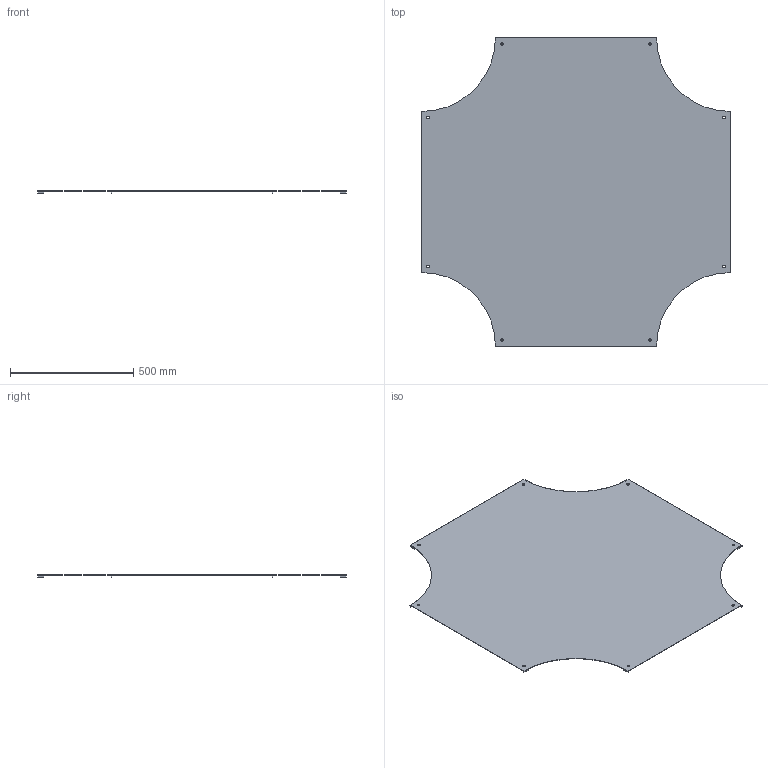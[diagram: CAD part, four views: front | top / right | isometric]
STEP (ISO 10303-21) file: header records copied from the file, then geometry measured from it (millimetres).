
FILE_DESCRIPTION(/* description */ ('','CAx-IF Rec.Pracs.---Representation and Presentation of Product Manufacturing Information (PMI)---4.0---2014-10-13'),/* implementation_level */ '2;1');
FILE_NAME(/* name */ 'Eurostrut_ECOC600-300_Cover Crossover for Cable Ladder ECL.step',/* time_stamp */ '2026-09-10T10:50:01+02:00',/* author */ (''),/* organization */ (''),/* preprocessor_version */ 'ST-DEVELOPER v20.1',/* originating_system */ 'Autodesk Revit 2027 27.2.0.39',/* authorisation */ '');
FILE_SCHEMA (('AP242_MANAGED_MODEL_BASED_3D_ENGINEERING_MIM_LF { 1 0 10303 442 2 1 4 }'));
Length unit declared in the file: millimetre
Products named in the file (6): TopLevelAssembly; Joined Solid Geometry; Joined Solid Geometry_1; Joined Solid Geometry_2; Joined Solid Geometry_3; Joined Solid Geometry_4
Assembly tree (5 placements, depth 2):
  TopLevelAssembly
    Joined Solid Geometry
    Joined Solid Geometry_1
    Joined Solid Geometry_2
    Joined Solid Geometry_3
    Joined Solid Geometry_4
Bounding box: 1250 x 1250 x 9 mm (x, y, z)
Volume: 1925175.7 mm3; surface area: 2574790.2 mm2
Topology: 9 solids, 9 shells, 74 faces, 168 edges, 112 vertices
Faces by surface type: plane 38, cylinder 36
Entity records: 2242 total; most frequent: DIRECTION 410, CARTESIAN_POINT 365, ORIENTED_EDGE 336, EDGE_CURVE 168, AXIS2_PLACEMENT_3D 157, VERTEX_POINT 112, LINE 96, VECTOR 96
